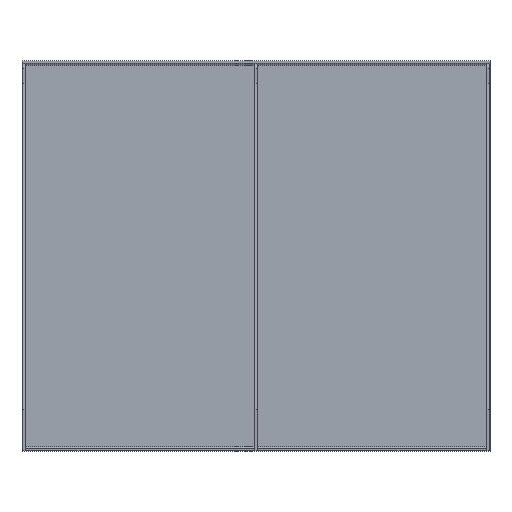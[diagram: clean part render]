
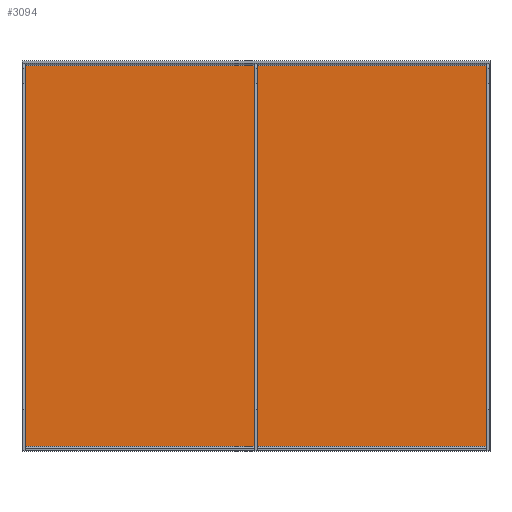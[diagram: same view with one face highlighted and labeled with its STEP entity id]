
A CAD part, top view. The second image highlights one B-rep face of the part: STEP entity #3094.
In plain terms, the highlighted planar face has unit normal (0, 0, 1).
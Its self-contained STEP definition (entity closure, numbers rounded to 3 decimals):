
#71 = VECTOR ( 'NONE', #846, 1000. ) ;
#86 = VECTOR ( 'NONE', #993, 1000. ) ;
#105 = VERTEX_POINT ( 'NONE', #2599 ) ;
#354 = EDGE_CURVE ( 'NONE', #2193, #1577, #962, .T. ) ;
#364 = LINE ( 'NONE', #380, #2788 ) ;
#380 = CARTESIAN_POINT ( 'NONE',  ( 600., 1100.007, 3. ) ) ;
#399 = CARTESIAN_POINT ( 'NONE',  ( 0., 6.3, 3. ) ) ;
#564 = AXIS2_PLACEMENT_3D ( 'NONE', #1328, #2511, #1285 ) ;
#577 = VERTEX_POINT ( 'NONE', #2503 ) ;
#757 = CARTESIAN_POINT ( 'NONE',  ( 0., 1100.007, 3. ) ) ;
#840 = EDGE_LOOP ( 'NONE', ( #1144, #2491, #2380, #3093 ) ) ;
#846 = DIRECTION ( 'NONE',  ( 1., 0., 0. ) ) ;
#962 = LINE ( 'NONE', #1702, #1253 ) ;
#993 = DIRECTION ( 'NONE',  ( 0., -1., 0. ) ) ;
#1144 = ORIENTED_EDGE ( 'NONE', *, *, #354, .F. ) ;
#1253 = VECTOR ( 'NONE', #1987, 1000. ) ;
#1285 = DIRECTION ( 'NONE',  ( -1., 0., 0. ) ) ;
#1328 = CARTESIAN_POINT ( 'NONE',  ( 0., 1100.007, 3. ) ) ;
#1343 = LINE ( 'NONE', #1567, #71 ) ;
#1567 = CARTESIAN_POINT ( 'NONE',  ( 0., 493.7, 3. ) ) ;
#1577 = VERTEX_POINT ( 'NONE', #399 ) ;
#1702 = CARTESIAN_POINT ( 'NONE',  ( 600., 6.3, 3. ) ) ;
#1706 = CARTESIAN_POINT ( 'NONE',  ( 600., 6.3, 3. ) ) ;
#1720 = LINE ( 'NONE', #757, #86 ) ;
#1962 = EDGE_CURVE ( 'NONE', #105, #577, #1343, .T. ) ;
#1987 = DIRECTION ( 'NONE',  ( -1., 0., 0. ) ) ;
#2077 = PLANE ( 'NONE',  #564 ) ;
#2107 = EDGE_CURVE ( 'NONE', #577, #2193, #364, .T. ) ;
#2193 = VERTEX_POINT ( 'NONE', #1706 ) ;
#2380 = ORIENTED_EDGE ( 'NONE', *, *, #1962, .F. ) ;
#2385 = DIRECTION ( 'NONE',  ( 0., -1., 0. ) ) ;
#2491 = ORIENTED_EDGE ( 'NONE', *, *, #2107, .F. ) ;
#2503 = CARTESIAN_POINT ( 'NONE',  ( 600., 493.7, 3. ) ) ;
#2511 = DIRECTION ( 'NONE',  ( 0., 0., -1. ) ) ;
#2538 = FACE_OUTER_BOUND ( 'NONE', #840, .T. ) ;
#2599 = CARTESIAN_POINT ( 'NONE',  ( 0., 493.7, 3. ) ) ;
#2788 = VECTOR ( 'NONE', #2385, 1000. ) ;
#2984 = EDGE_CURVE ( 'NONE', #105, #1577, #1720, .T. ) ;
#3093 = ORIENTED_EDGE ( 'NONE', *, *, #2984, .T. ) ;
#3094 = ADVANCED_FACE ( 'NONE', ( #2538 ), #2077, .F. ) ;
